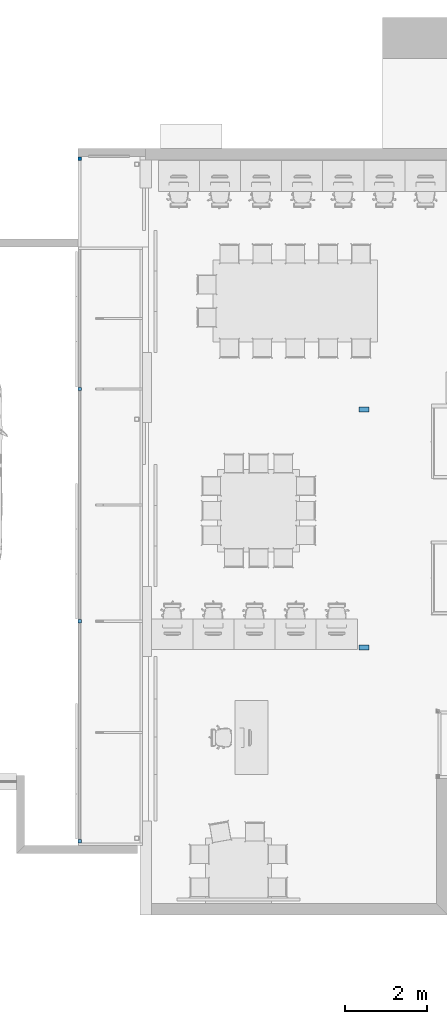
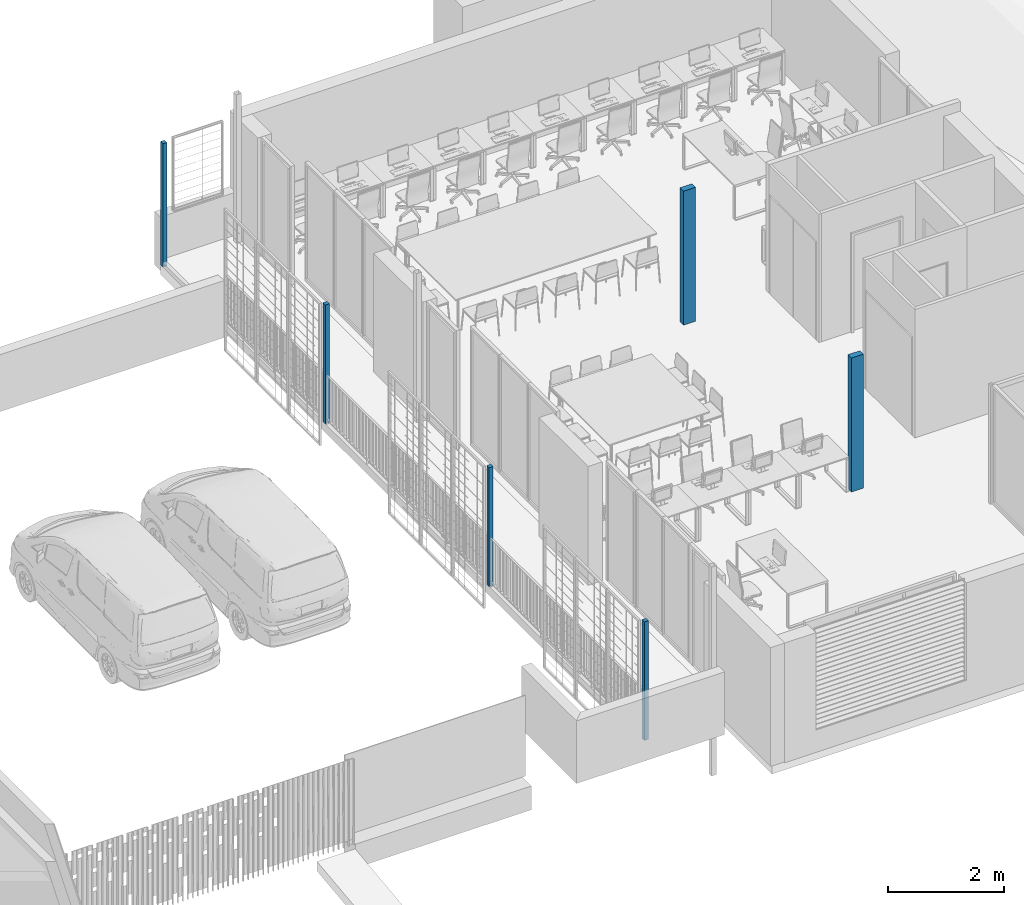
# One storey, part 3 of 51: 6 columns.
"""IFC2X3 building model written with IfcOpenShell, lengths in metres."""

from ifc_helpers import new_model, entity, si_unit, converted_unit, derived_unit, direction, frame, frame_2d, origin, origin_2d_with_axis, place, context, subcontext, project, spatial, rectangle, extrude, boolean, source, transform, mapped, material, type_object, type_shapes, element, save


model = new_model("IFC2X3")

# Units and contexts
model_context = context("Model", 3, precision=1e-05, world=origin(), true_north=direction((6.123031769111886e-17, 1.0)))
body_context = subcontext(model_context, "Body", "Model", "MODEL_VIEW")
ifc_project = project(units=[si_unit("LENGTHUNIT", "METRE"), si_unit("AREAUNIT", "SQUARE_METRE"), si_unit("VOLUMEUNIT", "CUBIC_METRE"), converted_unit("PLANEANGLEUNIT", "DEGREE", entity("IfcRatioMeasure", 0.017453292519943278), si_unit("PLANEANGLEUNIT", "RADIAN"), dimensions=[0, 0, 0, 0, 0, 0, 0]), si_unit("MASSUNIT", "GRAM", prefix="KILO"), derived_unit("MASSDENSITYUNIT", [(si_unit("MASSUNIT", "GRAM", prefix="KILO"), 1), (si_unit("LENGTHUNIT", "METRE"), -3)]), derived_unit("MOMENTOFINERTIAUNIT", [(si_unit("LENGTHUNIT", "METRE"), 4)]), si_unit("TIMEUNIT", "SECOND"), si_unit("FREQUENCYUNIT", "HERTZ"), si_unit("THERMODYNAMICTEMPERATUREUNIT", "DEGREE_CELSIUS"), derived_unit("THERMALTRANSMITTANCEUNIT", [(si_unit("MASSUNIT", "GRAM", prefix="KILO"), 1), (si_unit("THERMODYNAMICTEMPERATUREUNIT", "KELVIN"), -1), (si_unit("TIMEUNIT", "SECOND"), -3)]), derived_unit("THERMALCONDUCTANCEUNIT", [(si_unit("MASSUNIT", "GRAM", prefix="KILO"), 1), (si_unit("LENGTHUNIT", "METRE"), 1), (si_unit("THERMODYNAMICTEMPERATUREUNIT", "KELVIN"), -1), (si_unit("TIMEUNIT", "SECOND"), -3)]), derived_unit("VOLUMETRICFLOWRATEUNIT", [(si_unit("LENGTHUNIT", "METRE"), 3), (si_unit("TIMEUNIT", "SECOND"), -1)]), derived_unit("MASSFLOWRATEUNIT", [(si_unit("MASSUNIT", "GRAM", prefix="KILO"), 1), (si_unit("TIMEUNIT", "SECOND"), -1)]), derived_unit("ROTATIONALFREQUENCYUNIT", [(si_unit("TIMEUNIT", "SECOND"), -1)]), si_unit("ELECTRICCURRENTUNIT", "AMPERE"), si_unit("ELECTRICVOLTAGEUNIT", "VOLT"), si_unit("POWERUNIT", "WATT"), si_unit("FORCEUNIT", "NEWTON", prefix="KILO"), si_unit("ILLUMINANCEUNIT", "LUX"), si_unit("LUMINOUSFLUXUNIT", "LUMEN"), si_unit("LUMINOUSINTENSITYUNIT", "CANDELA"), derived_unit("USERDEFINED", [(si_unit("MASSUNIT", "GRAM", prefix="KILO"), -1), (si_unit("LENGTHUNIT", "METRE"), -2), (si_unit("TIMEUNIT", "SECOND"), 3), (si_unit("LUMINOUSFLUXUNIT", "LUMEN"), 1)]), derived_unit("USERDEFINED", [(si_unit("MASSUNIT", "GRAM", prefix="KILO"), 1), (si_unit("LENGTHUNIT", "METRE"), 3), (si_unit("TIMEUNIT", "SECOND"), -3), (si_unit("ELECTRICCURRENTUNIT", "AMPERE"), -2)]), derived_unit("USERDEFINED", [(si_unit("LENGTHUNIT", "METRE"), 2), (si_unit("TIMEUNIT", "SECOND"), -2)]), derived_unit("SOUNDPOWERUNIT", [(si_unit("MASSUNIT", "GRAM", prefix="KILO"), 1), (si_unit("LENGTHUNIT", "METRE"), 2), (si_unit("TIMEUNIT", "SECOND"), -3)]), derived_unit("SOUNDPRESSUREUNIT", [(si_unit("MASSUNIT", "GRAM", prefix="KILO"), 1), (si_unit("LENGTHUNIT", "METRE"), -1), (si_unit("TIMEUNIT", "SECOND"), -2)]), derived_unit("LINEARVELOCITYUNIT", [(si_unit("LENGTHUNIT", "METRE"), 1), (si_unit("TIMEUNIT", "SECOND"), -1)]), si_unit("PRESSUREUNIT", "PASCAL"), derived_unit("USERDEFINED", [(si_unit("LENGTHUNIT", "METRE"), -2), (si_unit("MASSUNIT", "GRAM", prefix="KILO"), 1), (si_unit("TIMEUNIT", "SECOND"), -2)]), derived_unit("LINEARFORCEUNIT", [(si_unit("MASSUNIT", "GRAM", prefix="KILO"), 1), (si_unit("LENGTHUNIT", "METRE"), 1), (si_unit("TIMEUNIT", "SECOND"), -2), (si_unit("LENGTHUNIT", "METRE"), -1)]), derived_unit("PLANARFORCEUNIT", [(si_unit("MASSUNIT", "GRAM", prefix="KILO"), 1), (si_unit("LENGTHUNIT", "METRE"), 1), (si_unit("TIMEUNIT", "SECOND"), -2), (si_unit("LENGTHUNIT", "METRE"), -2)]), derived_unit("SPECIFICHEATCAPACITYUNIT", [(si_unit("LENGTHUNIT", "METRE"), 2), (si_unit("TIMEUNIT", "SECOND"), -2), (si_unit("THERMODYNAMICTEMPERATUREUNIT", "KELVIN"), -1)]), derived_unit("VAPORPERMEABILITYUNIT", [(si_unit("TIMEUNIT", "SECOND"), 1), (si_unit("LENGTHUNIT", "METRE"), -1)]), derived_unit("DYNAMICVISCOSITYUNIT", [(si_unit("MASSUNIT", "GRAM", prefix="KILO"), 1), (si_unit("LENGTHUNIT", "METRE"), -1), (si_unit("TIMEUNIT", "SECOND"), -1)]), derived_unit("THERMALEXPANSIONCOEFFICIENTUNIT", [(si_unit("THERMODYNAMICTEMPERATUREUNIT", "KELVIN"), -1)])], contexts=[model_context])

# Site, building, storey
site_placement = place(None, origin())
site = spatial("IfcSite", under=ifc_project, at=site_placement, Name="Default", CompositionType="ELEMENT")
building_placement = place(site_placement, origin())
building = spatial("IfcBuilding", under=site, at=building_placement, CompositionType="ELEMENT")
storey_placement = place(building_placement, frame((0.0, 0.0, 3.06)))
storey = spatial("IfcBuildingStorey", under=building, at=storey_placement, Name="ÉTAGE", CompositionType="ELEMENT", Elevation=3.06)

# Columns
ifc_material = material(Name="Peinture - Gris foncé")
column_type_1 = type_object("IfcColumnType", Name="Pot-005:Pot-005", PredefinedType="COLUMN", material=ifc_material)
shared_shape_1 = source(origin(), body_context, "Body", "SweptSolid", [
    extrude(rectangle(XDim=0.05999999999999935, YDim=0.06000000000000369, at=frame_2d((0.0, -8.663209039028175e-15), x_axis=(1.0, 0.0))), frame((139.94075223, 9.38720952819, 4.27), z_axis=(0.0, 0.0, 1.0), x_axis=(0.0, -1.0, 0.0)), (0.0, 0.0, 1.0), 2.499999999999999),
    boolean("DIFFERENCE", extrude(rectangle(XDim=0.07999999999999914, YDim=0.07999999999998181, at=origin_2d_with_axis()), frame((139.94075223, 9.38720952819, 4.27), z_axis=(0.0, 0.0, 1.0), x_axis=(0.0, -1.0, 0.0)), (0.0, 0.0, 1.0), 2.499999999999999), extrude(rectangle(XDim=0.05999999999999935, YDim=0.06000000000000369, at=frame_2d((0.0, -8.663209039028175e-15), x_axis=(1.0, 0.0))), frame((139.94075223, 9.38720952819, 6.769999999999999), z_axis=(0.0, 0.0, -1.0), x_axis=(0.0, -1.0, 0.0)), (0.0, 0.0, 1.0), 2.499999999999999)),
])
type_shapes(column_type_1, [shared_shape_1])
column_1_placement = place(storey_placement, frame((0.0, 0.0, -3.06)))
element("IfcColumn", 1, at=column_1_placement, inside=storey, type_object=column_type_1, material=ifc_material, Name="Pot-005:Pot-005", ObjectType="Pot-005:Pot-005", context=body_context, shape_type="MappedRepresentation", body=[
    mapped(shared_shape_1, transform((0.0, 0.0, 0.0), scale=1.0)),
])
column_type_2 = type_object("IfcColumnType", Name="Pot-005 285852:Pot-005 285852", PredefinedType="COLUMN", material=ifc_material)
shared_shape_2 = source(origin(), body_context, "Body", "SweptSolid", [
    extrude(rectangle(XDim=0.05999999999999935, YDim=0.06000000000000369, at=frame_2d((0.0, -8.663209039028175e-15), x_axis=(1.0, 0.0))), frame((139.94075223, 14.737209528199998, 4.27), z_axis=(0.0, 0.0, 1.0), x_axis=(0.0, -1.0, 0.0)), (0.0, 0.0, 1.0), 2.499999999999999),
    boolean("DIFFERENCE", extrude(rectangle(XDim=0.07999999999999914, YDim=0.07999999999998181, at=origin_2d_with_axis()), frame((139.94075223, 14.737209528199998, 4.27), z_axis=(0.0, 0.0, 1.0), x_axis=(0.0, -1.0, 0.0)), (0.0, 0.0, 1.0), 2.499999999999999), extrude(rectangle(XDim=0.05999999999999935, YDim=0.06000000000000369, at=frame_2d((0.0, -8.663209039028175e-15), x_axis=(1.0, 0.0))), frame((139.94075223, 14.737209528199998, 6.769999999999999), z_axis=(0.0, 0.0, -1.0), x_axis=(0.0, -1.0, 0.0)), (0.0, 0.0, 1.0), 2.499999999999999)),
])
type_shapes(column_type_2, [shared_shape_2])
column_2_placement = place(storey_placement, frame((0.0, 0.0, -3.06)))
element("IfcColumn", 2, at=column_2_placement, inside=storey, type_object=column_type_2, material=ifc_material, Name="Pot-005 285852:Pot-005 285852", ObjectType="Pot-005 285852:Pot-005 285852", context=body_context, shape_type="MappedRepresentation", body=[
    mapped(shared_shape_2, transform((0.0, 0.0, 0.0), scale=1.0)),
])
column_type_3 = type_object("IfcColumnType", Name="Pot-005 285958:Pot-005 285958", PredefinedType="COLUMN", material=ifc_material)
shared_shape_3 = source(origin(), body_context, "Body", "SweptSolid", [
    extrude(rectangle(XDim=0.05999999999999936, YDim=0.06000000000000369, at=frame_2d((-2.166669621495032e-15, -8.663209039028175e-15), x_axis=(1.0, 0.0))), frame((139.94075223, 20.387209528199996, 4.27), z_axis=(0.0, 0.0, 1.0), x_axis=(0.0, -1.0, 0.0)), (0.0, 0.0, 1.0), 2.499999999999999),
    boolean("DIFFERENCE", extrude(rectangle(XDim=0.07999999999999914, YDim=0.07999999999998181, at=origin_2d_with_axis()), frame((139.94075223, 20.3872095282, 4.27), z_axis=(0.0, 0.0, 1.0), x_axis=(0.0, -1.0, 0.0)), (0.0, 0.0, 1.0), 2.499999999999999), extrude(rectangle(XDim=0.05999999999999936, YDim=0.06000000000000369, at=frame_2d((-2.166669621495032e-15, -8.663209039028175e-15), x_axis=(1.0, 0.0))), frame((139.94075223, 20.387209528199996, 6.769999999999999), z_axis=(0.0, 0.0, -1.0), x_axis=(0.0, -1.0, 0.0)), (0.0, 0.0, 1.0), 2.499999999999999)),
])
type_shapes(column_type_3, [shared_shape_3])
column_3_placement = place(storey_placement, frame((0.0, 0.0, -3.06)))
element("IfcColumn", 3, at=column_3_placement, inside=storey, type_object=column_type_3, material=ifc_material, Name="Pot-005 285958:Pot-005 285958", ObjectType="Pot-005 285958:Pot-005 285958", context=body_context, shape_type="MappedRepresentation", body=[
    mapped(shared_shape_3, transform((0.0, 0.0, 0.0), scale=1.0)),
])
column_type_4 = type_object("IfcColumnType", Name="Pot-005 286064:Pot-005 286064", PredefinedType="COLUMN", material=ifc_material)
shared_shape_4 = source(origin(), body_context, "Body", "SweptSolid", [
    extrude(rectangle(XDim=0.05999999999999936, YDim=0.05999999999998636, at=frame_2d((2.166669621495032e-15, 0.0), x_axis=(1.0, 0.0))), frame((139.940752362, 25.9872093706, 4.17), z_axis=(0.0, 0.0, 1.0), x_axis=(0.0, -1.0, 0.0)), (0.0, 0.0, 1.0), 2.6),
    boolean("DIFFERENCE", extrude(rectangle(XDim=0.07999999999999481, YDim=0.07999999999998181, at=frame_2d((2.1649348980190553e-15, 0.0), x_axis=(1.0, 0.0))), frame((139.940752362, 25.9872093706, 4.17), z_axis=(0.0, 0.0, 1.0), x_axis=(0.0, -1.0, 0.0)), (0.0, 0.0, 1.0), 2.6), extrude(rectangle(XDim=0.05999999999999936, YDim=0.05999999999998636, at=frame_2d((2.166669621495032e-15, 0.0), x_axis=(1.0, 0.0))), frame((139.940752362, 25.9872093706, 6.77), z_axis=(0.0, 0.0, -1.0), x_axis=(0.0, -1.0, 0.0)), (0.0, 0.0, 1.0), 2.6)),
])
type_shapes(column_type_4, [shared_shape_4])
column_4_placement = place(storey_placement, frame((0.0, 0.0, -3.06)))
element("IfcColumn", 4, at=column_4_placement, inside=storey, type_object=column_type_4, material=ifc_material, Name="Pot-005 286064:Pot-005 286064", ObjectType="Pot-005 286064:Pot-005 286064", context=body_context, shape_type="MappedRepresentation", body=[
    mapped(shared_shape_4, transform((0.0, 0.0, 0.0), scale=1.0)),
])
column_type_5 = type_object("IfcColumnType", Name="Pot-012 448235:Pot-012 448235", PredefinedType="COLUMN", material=ifc_material)
shared_shape_5 = source(origin(), body_context, "Body", "SweptSolid", [
    extrude(rectangle(XDim=0.12, YDim=0.24, at=origin_2d_with_axis()), frame((0.0, 0.0, 4.27), z_axis=(0.0, 0.0, 1.0), x_axis=(0.0, -1.0, 0.0)), (0.0, 0.0, 1.0), 2.82),
])
type_shapes(column_type_5, [shared_shape_5])
for number, where, name in (
    (5, (146.850752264, 14.094355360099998, -3.06), "Pot-012"),
    (6, (146.850752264, 19.8872093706, -3.06), "Pot-012"),
):
    element("IfcColumn", number, at=place(storey_placement, frame(where)), inside=storey, type_object=column_type_5, material=ifc_material, Name=name, ObjectType="Pot-012 448235:Pot-012 448235", context=body_context, shape_type="MappedRepresentation", body=[
        mapped(shared_shape_5, transform((0.0, 0.0, 0.0), scale=1.0)),
    ])

save(model, "model.ifc")
